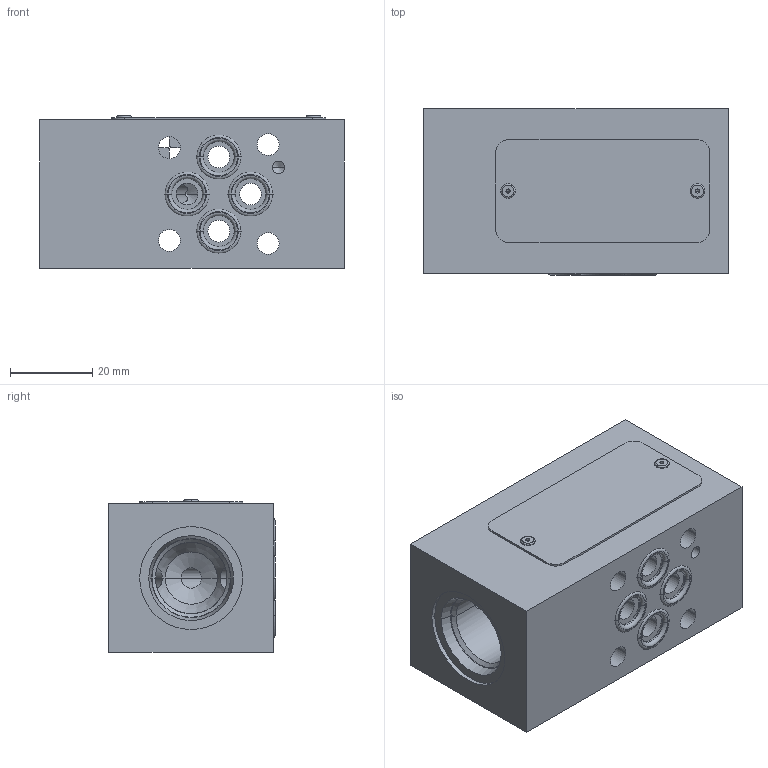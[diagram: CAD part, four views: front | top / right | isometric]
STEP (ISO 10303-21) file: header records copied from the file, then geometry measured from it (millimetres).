
FILE_DESCRIPTION((''),'2;1');
FILE_NAME('31509300_ASM','2023-10-12T',('l.soukupova'),(''),'PRO/ENGINEER BY PARAMETRIC TECHNOLOGY CORPORATION, 2015440','PRO/ENGINEER BY PARAMETRIC TECHNOLOGY CORPORATION, 2015440','');
FILE_SCHEMA(('AUTOMOTIVE_DESIGN { 1 0 10303 214 1 1 1 1 }'));
Length unit declared in the file: millimetre
Products named in the file (8): 31509201; RD_LABEL_25X52_159703; AF_1932_16485; ORIA00750_292673_AF0; ORIA00750_292673_AF1; ORIA00750_292673_AF2; ORIA00750_292673_AF3; 31509300_ASM
Assembly tree (8 placements, depth 2):
  31509300_ASM
    31509201
    RD_LABEL_25X52_159703
    AF_1932_16485  x2
    ORIA00750_292673_AF0
    ORIA00750_292673_AF1
    ORIA00750_292673_AF2
    ORIA00750_292673_AF3
Bounding box: 74 x 40.4 x 37 mm (x, y, z)
Volume: 92730.4 mm3; surface area: 25308.3 mm2
Topology: 8 solids, 11 shells, 174 faces, 536 edges, 448 vertices
Faces by surface type: cylinder 84, torus 36, plane 34, cone 20
Entity records: 8710 total; most frequent: CARTESIAN_POINT 1502, DIRECTION 1163, ORIENTED_EDGE 726, AXIS2_PLACEMENT_3D 465, PRESENTATION_STYLE_ASSIGNMENT 417, EDGE_CURVE 369, STYLED_ITEM 347, CURVE_STYLE 315
